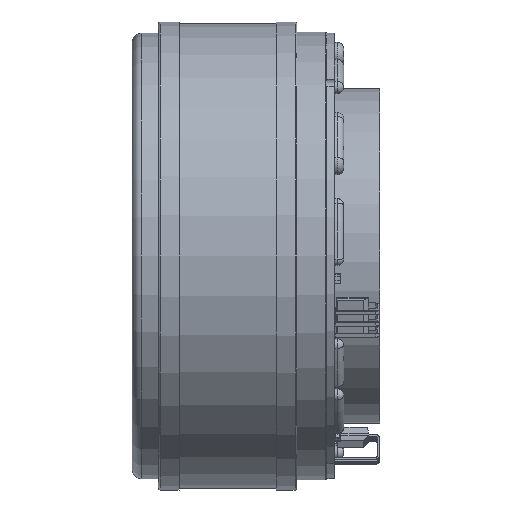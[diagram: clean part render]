
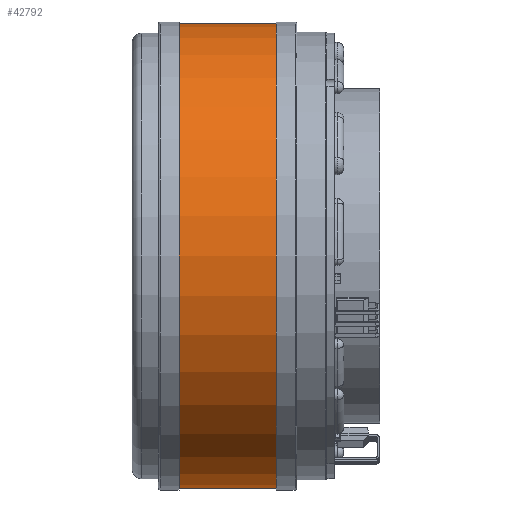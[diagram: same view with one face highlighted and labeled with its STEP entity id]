
A CAD part, front view. The second image highlights one B-rep face of the part: STEP entity #42792.
In plain terms, the highlighted cylindrical face has radius 24.8 mm (diameter 49.6 mm), a partial arc.
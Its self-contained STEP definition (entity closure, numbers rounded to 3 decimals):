
#1061 = CIRCLE ( 'NONE', #6055, 24.8 ) ;
#1334 = VERTEX_POINT ( 'NONE', #27538 ) ;
#2969 = DIRECTION ( 'NONE',  ( 0., 0., 1. ) ) ;
#3723 = EDGE_CURVE ( 'NONE', #1334, #41472, #7942, .T. ) ;
#4871 = ORIENTED_EDGE ( 'NONE', *, *, #3723, .F. ) ;
#6055 = AXIS2_PLACEMENT_3D ( 'NONE', #34422, #14530, #37787 ) ;
#7421 = ORIENTED_EDGE ( 'NONE', *, *, #30219, .F. ) ;
#7942 = LINE ( 'NONE', #16383, #24577 ) ;
#8775 = EDGE_LOOP ( 'NONE', ( #4871, #34318, #28814, #7421 ) ) ;
#11547 = EDGE_CURVE ( 'NONE', #33864, #18331, #31970, .T. ) ;
#13344 = CYLINDRICAL_SURFACE ( 'NONE', #18700, 24.8 ) ;
#14530 = DIRECTION ( 'NONE',  ( -1., 0., 0. ) ) ;
#16383 = CARTESIAN_POINT ( 'NONE',  ( 0., 0., -24.8 ) ) ;
#16781 = DIRECTION ( 'NONE',  ( -1., 0., 0. ) ) ;
#18331 = VERTEX_POINT ( 'NONE', #34962 ) ;
#18420 = DIRECTION ( 'NONE',  ( -1., 0., 0. ) ) ;
#18700 = AXIS2_PLACEMENT_3D ( 'NONE', #26152, #29490, #2969 ) ;
#20950 = CIRCLE ( 'NONE', #40713, 24.8 ) ;
#21070 = CARTESIAN_POINT ( 'NONE',  ( 5., 0., -24.8 ) ) ;
#21832 = EDGE_CURVE ( 'NONE', #1334, #33864, #1061, .T. ) ;
#22895 = DIRECTION ( 'NONE',  ( -1., 0., 0. ) ) ;
#24577 = VECTOR ( 'NONE', #22895, 1000. ) ;
#26152 = CARTESIAN_POINT ( 'NONE',  ( 0., 0., 0. ) ) ;
#27538 = CARTESIAN_POINT ( 'NONE',  ( 15.4, 0., -24.8 ) ) ;
#28814 = ORIENTED_EDGE ( 'NONE', *, *, #11547, .T. ) ;
#29490 = DIRECTION ( 'NONE',  ( -1., 0., 0. ) ) ;
#30219 = EDGE_CURVE ( 'NONE', #41472, #18331, #20950, .T. ) ;
#31970 = LINE ( 'NONE', #41670, #39789 ) ;
#33864 = VERTEX_POINT ( 'NONE', #42602 ) ;
#34318 = ORIENTED_EDGE ( 'NONE', *, *, #21832, .T. ) ;
#34422 = CARTESIAN_POINT ( 'NONE',  ( 15.4, 0., 0. ) ) ;
#34962 = CARTESIAN_POINT ( 'NONE',  ( 5., 0., 24.8 ) ) ;
#35174 = FACE_OUTER_BOUND ( 'NONE', #8775, .T. ) ;
#36667 = CARTESIAN_POINT ( 'NONE',  ( 5., 0., 0. ) ) ;
#37787 = DIRECTION ( 'NONE',  ( 0., 0., 1. ) ) ;
#39789 = VECTOR ( 'NONE', #18420, 1000. ) ;
#40019 = DIRECTION ( 'NONE',  ( 0., 0., 1. ) ) ;
#40713 = AXIS2_PLACEMENT_3D ( 'NONE', #36667, #16781, #40019 ) ;
#41472 = VERTEX_POINT ( 'NONE', #21070 ) ;
#41670 = CARTESIAN_POINT ( 'NONE',  ( 0., 0., 24.8 ) ) ;
#42602 = CARTESIAN_POINT ( 'NONE',  ( 15.4, 0., 24.8 ) ) ;
#42792 = ADVANCED_FACE ( 'NONE', ( #35174 ), #13344, .T. ) ;
